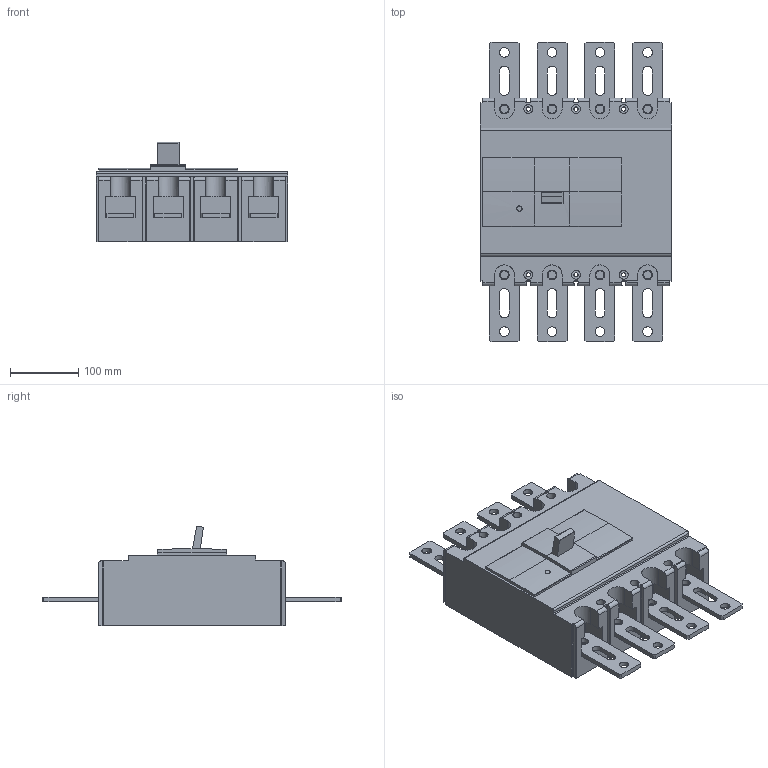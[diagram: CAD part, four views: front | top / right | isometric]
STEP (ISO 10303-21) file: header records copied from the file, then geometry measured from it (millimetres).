
FILE_DESCRIPTION (( 'STEP AP203' ), '1' );
FILE_NAME ('600N 4P.STEP', '2018-01-04T00:54:40', ( '' ), ( '' ), 'SwSTEP 2.0', 'SolidWorks 2015', '' );
FILE_SCHEMA (( 'CONFIG_CONTROL_DESIGN' ));
Length unit declared in the file: millimetre
Products named in the file (1): 600N 4P
Bounding box: 280 x 439 x 145.77 mm (x, y, z)
Volume: 7455269.2 mm3; surface area: 431331.4 mm2
Topology: 9 solids, 9 shells, 427 faces, 1172 edges, 781 vertices
Faces by surface type: plane 237, cylinder 190
Entity records: 14080 total; most frequent: CARTESIAN_POINT 2888, ORIENTED_EDGE 2344, DIRECTION 2277, EDGE_CURVE 1172, VERTEX_POINT 781, LINE 769, VECTOR 769, AXIS2_PLACEMENT_3D 754
